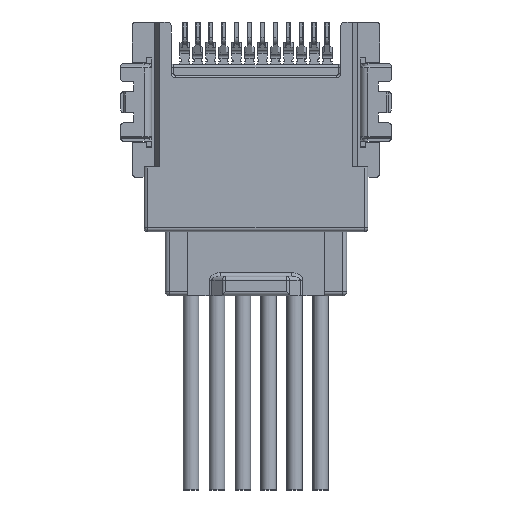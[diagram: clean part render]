
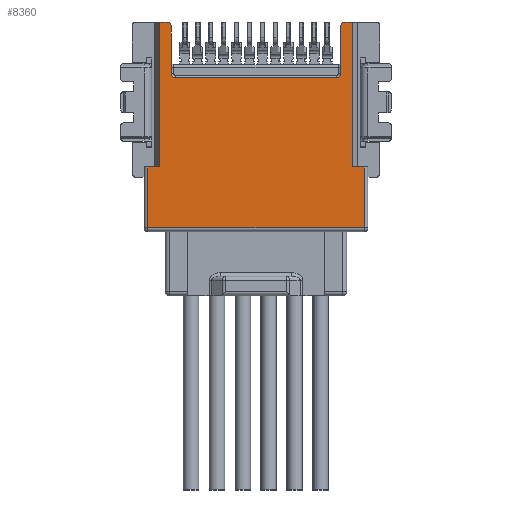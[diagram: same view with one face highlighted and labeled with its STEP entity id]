
A CAD part, front view. The second image highlights one B-rep face of the part: STEP entity #8360.
In plain terms, the highlighted planar face has unit normal (0, -1, 0).
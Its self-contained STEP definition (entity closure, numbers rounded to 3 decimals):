
#277 = FACE_OUTER_BOUND ( 'NONE', #17277, .T. ) ;
#525 = CARTESIAN_POINT ( 'NONE',  ( -9.151, -4.853, 8.562 ) ) ;
#609 = ORIENTED_EDGE ( 'NONE', *, *, #11169, .F. ) ;
#1185 = VERTEX_POINT ( 'NONE', #40057 ) ;
#2547 = CARTESIAN_POINT ( 'NONE',  ( 3.949, -4.853, 4.862 ) ) ;
#2885 = ORIENTED_EDGE ( 'NONE', *, *, #32330, .F. ) ;
#3307 = CARTESIAN_POINT ( 'NONE',  ( 5.149, -4.853, -2.338 ) ) ;
#3370 = VERTEX_POINT ( 'NONE', #5808 ) ;
#3488 = VERTEX_POINT ( 'NONE', #25599 ) ;
#3690 = DIRECTION ( 'NONE',  ( 1., 0., 0. ) ) ;
#4188 = DIRECTION ( 'NONE',  ( 0., 0., -1. ) ) ;
#4258 = ORIENTED_EDGE ( 'NONE', *, *, #21772, .T. ) ;
#5103 = VECTOR ( 'NONE', #37436, 1000. ) ;
#5496 = CARTESIAN_POINT ( 'NONE',  ( 4.249, -4.853, 8.562 ) ) ;
#5808 = CARTESIAN_POINT ( 'NONE',  ( -9.151, -4.853, 8.862 ) ) ;
#5998 = CIRCLE ( 'NONE', #15176, 0.3 ) ;
#6149 = AXIS2_PLACEMENT_3D ( 'NONE', #525, #25738, #4188 ) ;
#6155 = DIRECTION ( 'NONE',  ( 0., 0., -1. ) ) ;
#6466 = EDGE_CURVE ( 'NONE', #42737, #32023, #27539, .T. ) ;
#6751 = DIRECTION ( 'NONE',  ( 1., 0., 0. ) ) ;
#6913 = DIRECTION ( 'NONE',  ( 1., 0., 0. ) ) ;
#7371 = EDGE_CURVE ( 'NONE', #30527, #1185, #37076, .T. ) ;
#8269 = LINE ( 'NONE', #23477, #35909 ) ;
#8360 = ADVANCED_FACE ( 'NONE', ( #277 ), #28609, .T. ) ;
#8634 = DIRECTION ( 'NONE',  ( 0., -1., 0. ) ) ;
#8936 = ORIENTED_EDGE ( 'NONE', *, *, #39296, .F. ) ;
#9652 = EDGE_CURVE ( 'NONE', #29837, #31337, #30042, .T. ) ;
#9808 = CARTESIAN_POINT ( 'NONE',  ( -8.551, -4.853, 4.562 ) ) ;
#10460 = LINE ( 'NONE', #32517, #27398 ) ;
#10809 = VECTOR ( 'NONE', #6913, 1000. ) ;
#11169 = EDGE_CURVE ( 'NONE', #37638, #40020, #36671, .T. ) ;
#12164 = CARTESIAN_POINT ( 'NONE',  ( -10.651, -4.853, -7.338 ) ) ;
#12216 = VECTOR ( 'NONE', #13830, 1000. ) ;
#12926 = ORIENTED_EDGE ( 'NONE', *, *, #46170, .F. ) ;
#13830 = DIRECTION ( 'NONE',  ( 0., 0., -1. ) ) ;
#13920 = DIRECTION ( 'NONE',  ( 0., 0., 1. ) ) ;
#14223 = LINE ( 'NONE', #18034, #22691 ) ;
#14414 = CARTESIAN_POINT ( 'NONE',  ( -9.751, -4.853, 8.862 ) ) ;
#15176 = AXIS2_PLACEMENT_3D ( 'NONE', #30237, #8634, #33891 ) ;
#17277 = EDGE_LOOP ( 'NONE', ( #44425, #17815, #8936, #46259, #35673, #39267, #17420, #21109, #609, #45169, #12926, #4258, #32020, #2885, #18277, #23765 ) ) ;
#17420 = ORIENTED_EDGE ( 'NONE', *, *, #34678, .F. ) ;
#17717 = CARTESIAN_POINT ( 'NONE',  ( 6.049, -4.853, -2.338 ) ) ;
#17815 = ORIENTED_EDGE ( 'NONE', *, *, #7371, .T. ) ;
#17952 = VECTOR ( 'NONE', #18670, 1000. ) ;
#17981 = EDGE_CURVE ( 'NONE', #46771, #3370, #10460, .T. ) ;
#18034 = CARTESIAN_POINT ( 'NONE',  ( 5.749, -4.853, -2.338 ) ) ;
#18277 = ORIENTED_EDGE ( 'NONE', *, *, #9652, .F. ) ;
#18670 = DIRECTION ( 'NONE',  ( 0., 0., -1. ) ) ;
#18740 = CARTESIAN_POINT ( 'NONE',  ( 3.949, -4.853, 4.562 ) ) ;
#19935 = DIRECTION ( 'NONE',  ( 0., 1., 0. ) ) ;
#20722 = CARTESIAN_POINT ( 'NONE',  ( 6.349, -4.853, -7.038 ) ) ;
#21109 = ORIENTED_EDGE ( 'NONE', *, *, #38584, .T. ) ;
#21381 = DIRECTION ( 'NONE',  ( 0., 0., 1. ) ) ;
#21450 = CIRCLE ( 'NONE', #6149, 0.3 ) ;
#21526 = DIRECTION ( 'NONE',  ( 0., -1., 0. ) ) ;
#21608 = EDGE_CURVE ( 'NONE', #37638, #3488, #37850, .T. ) ;
#21772 = EDGE_CURVE ( 'NONE', #46361, #3370, #21450, .T. ) ;
#21904 = CARTESIAN_POINT ( 'NONE',  ( 4.249, -4.853, 4.862 ) ) ;
#21945 = EDGE_CURVE ( 'NONE', #29837, #33659, #33875, .T. ) ;
#22187 = CARTESIAN_POINT ( 'NONE',  ( 6.049, -4.853, -7.038 ) ) ;
#22691 = VECTOR ( 'NONE', #32406, 1000. ) ;
#22808 = CARTESIAN_POINT ( 'NONE',  ( -9.751, -4.853, 9.462 ) ) ;
#23447 = CARTESIAN_POINT ( 'NONE',  ( -10.651, -4.853, -2.338 ) ) ;
#23463 = CARTESIAN_POINT ( 'NONE',  ( 5.149, -4.853, 8.862 ) ) ;
#23477 = CARTESIAN_POINT ( 'NONE',  ( -11.851, -4.853, 8.862 ) ) ;
#23765 = ORIENTED_EDGE ( 'NONE', *, *, #21945, .T. ) ;
#24325 = DIRECTION ( 'NONE',  ( 1., 0., 0. ) ) ;
#24918 = LINE ( 'NONE', #20722, #43060 ) ;
#25599 = CARTESIAN_POINT ( 'NONE',  ( -8.851, -4.853, 4.862 ) ) ;
#25625 = VERTEX_POINT ( 'NONE', #42533 ) ;
#25738 = DIRECTION ( 'NONE',  ( 0., -1., 0. ) ) ;
#27220 = LINE ( 'NONE', #39422, #46598 ) ;
#27398 = VECTOR ( 'NONE', #3690, 1000. ) ;
#27539 = LINE ( 'NONE', #43719, #17952 ) ;
#27718 = DIRECTION ( 'NONE',  ( 0., 1., 0. ) ) ;
#28304 = AXIS2_PLACEMENT_3D ( 'NONE', #2547, #27718, #6155 ) ;
#28609 = PLANE ( 'NONE',  #42863 ) ;
#29755 = EDGE_CURVE ( 'NONE', #25625, #36873, #5998, .T. ) ;
#29837 = VERTEX_POINT ( 'NONE', #23447 ) ;
#30042 = LINE ( 'NONE', #32124, #10809 ) ;
#30105 = CIRCLE ( 'NONE', #28304, 0.3 ) ;
#30237 = CARTESIAN_POINT ( 'NONE',  ( 4.549, -4.853, 8.562 ) ) ;
#30527 = VERTEX_POINT ( 'NONE', #22187 ) ;
#30924 = CARTESIAN_POINT ( 'NONE',  ( -9.751, -4.853, -2.338 ) ) ;
#31337 = VERTEX_POINT ( 'NONE', #30924 ) ;
#31780 = EDGE_CURVE ( 'NONE', #25625, #42737, #8269, .T. ) ;
#31830 = CARTESIAN_POINT ( 'NONE',  ( -8.851, -4.853, 4.562 ) ) ;
#32020 = ORIENTED_EDGE ( 'NONE', *, *, #17981, .F. ) ;
#32023 = VERTEX_POINT ( 'NONE', #3307 ) ;
#32124 = CARTESIAN_POINT ( 'NONE',  ( -10.351, -4.853, -2.338 ) ) ;
#32330 = EDGE_CURVE ( 'NONE', #31337, #46771, #34764, .T. ) ;
#32406 = DIRECTION ( 'NONE',  ( 1., 0., 0. ) ) ;
#32485 = VECTOR ( 'NONE', #41012, 1000. ) ;
#32517 = CARTESIAN_POINT ( 'NONE',  ( -11.851, -4.853, 8.862 ) ) ;
#33659 = VERTEX_POINT ( 'NONE', #36783 ) ;
#33875 = LINE ( 'NONE', #12164, #5103 ) ;
#33891 = DIRECTION ( 'NONE',  ( 0., 0., -1. ) ) ;
#34678 = EDGE_CURVE ( 'NONE', #42420, #36873, #27220, .T. ) ;
#34764 = LINE ( 'NONE', #22808, #32485 ) ;
#35168 = EDGE_CURVE ( 'NONE', #33659, #30527, #24918, .T. ) ;
#35673 = ORIENTED_EDGE ( 'NONE', *, *, #31780, .F. ) ;
#35876 = CARTESIAN_POINT ( 'NONE',  ( -10.351, -4.853, -7.338 ) ) ;
#35909 = VECTOR ( 'NONE', #37847, 1000. ) ;
#35927 = VECTOR ( 'NONE', #13920, 1000. ) ;
#36525 = CARTESIAN_POINT ( 'NONE',  ( -8.851, -4.853, 8.562 ) ) ;
#36671 = LINE ( 'NONE', #46475, #46410 ) ;
#36783 = CARTESIAN_POINT ( 'NONE',  ( -10.651, -4.853, -7.038 ) ) ;
#36873 = VERTEX_POINT ( 'NONE', #5496 ) ;
#37076 = LINE ( 'NONE', #17717, #35927 ) ;
#37436 = DIRECTION ( 'NONE',  ( 0., 0., -1. ) ) ;
#37638 = VERTEX_POINT ( 'NONE', #9808 ) ;
#37847 = DIRECTION ( 'NONE',  ( 1., 0., 0. ) ) ;
#37850 = CIRCLE ( 'NONE', #41849, 0.3 ) ;
#38584 = EDGE_CURVE ( 'NONE', #42420, #40020, #30105, .T. ) ;
#39267 = ORIENTED_EDGE ( 'NONE', *, *, #29755, .T. ) ;
#39296 = EDGE_CURVE ( 'NONE', #32023, #1185, #14223, .T. ) ;
#39422 = CARTESIAN_POINT ( 'NONE',  ( 4.249, -4.853, 4.562 ) ) ;
#40020 = VERTEX_POINT ( 'NONE', #18740 ) ;
#40057 = CARTESIAN_POINT ( 'NONE',  ( 6.049, -4.853, -2.338 ) ) ;
#41012 = DIRECTION ( 'NONE',  ( 0., 0., 1. ) ) ;
#41081 = LINE ( 'NONE', #31830, #12216 ) ;
#41616 = CARTESIAN_POINT ( 'NONE',  ( -8.551, -4.853, 4.862 ) ) ;
#41849 = AXIS2_PLACEMENT_3D ( 'NONE', #41616, #19935, #45280 ) ;
#42420 = VERTEX_POINT ( 'NONE', #21904 ) ;
#42533 = CARTESIAN_POINT ( 'NONE',  ( 4.549, -4.853, 8.862 ) ) ;
#42737 = VERTEX_POINT ( 'NONE', #23463 ) ;
#42863 = AXIS2_PLACEMENT_3D ( 'NONE', #35876, #21526, #46919 ) ;
#43060 = VECTOR ( 'NONE', #24325, 1000. ) ;
#43719 = CARTESIAN_POINT ( 'NONE',  ( 5.149, -4.853, 9.462 ) ) ;
#44425 = ORIENTED_EDGE ( 'NONE', *, *, #35168, .T. ) ;
#45169 = ORIENTED_EDGE ( 'NONE', *, *, #21608, .T. ) ;
#45280 = DIRECTION ( 'NONE',  ( 0., 0., -1. ) ) ;
#46170 = EDGE_CURVE ( 'NONE', #46361, #3488, #41081, .T. ) ;
#46259 = ORIENTED_EDGE ( 'NONE', *, *, #6466, .F. ) ;
#46361 = VERTEX_POINT ( 'NONE', #36525 ) ;
#46410 = VECTOR ( 'NONE', #6751, 1000. ) ;
#46475 = CARTESIAN_POINT ( 'NONE',  ( -10.351, -4.853, 4.562 ) ) ;
#46598 = VECTOR ( 'NONE', #21381, 1000. ) ;
#46771 = VERTEX_POINT ( 'NONE', #14414 ) ;
#46919 = DIRECTION ( 'NONE',  ( 0., 0., -1. ) ) ;
